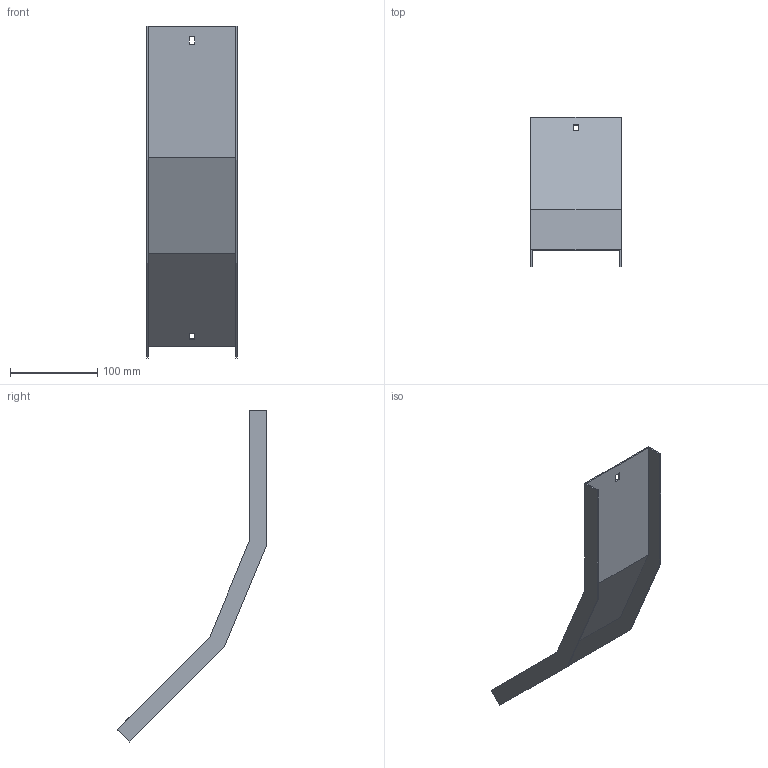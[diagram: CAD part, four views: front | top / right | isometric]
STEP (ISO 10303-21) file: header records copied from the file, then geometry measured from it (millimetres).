
FILE_DESCRIPTION (( 'STEP AP214' ), '1' );
FILE_NAME ('A2X31N3R100X.step', '2025-03-20T09:40:56', ( '' ), ( '' ), 'SwSTEP 2.0', 'SolidWorks 2023', '' );
FILE_SCHEMA (( 'AUTOMOTIVE_DESIGN' ));
Length unit declared in the file: millimetre
Products named in the file (1): A2X31N3R100X
Bounding box: 103 x 171.43 x 379.72 mm (x, y, z)
Volume: 88276.4 mm3; surface area: 119516.3 mm2
Topology: 1 solids, 1 shells, 26 faces, 72 edges, 48 vertices
Faces by surface type: plane 26
Entity records: 847 total; most frequent: CARTESIAN_POINT 147, ORIENTED_EDGE 144, DIRECTION 126, VECTOR 72, LINE 72, EDGE_CURVE 72, VERTEX_POINT 48, EDGE_LOOP 30
